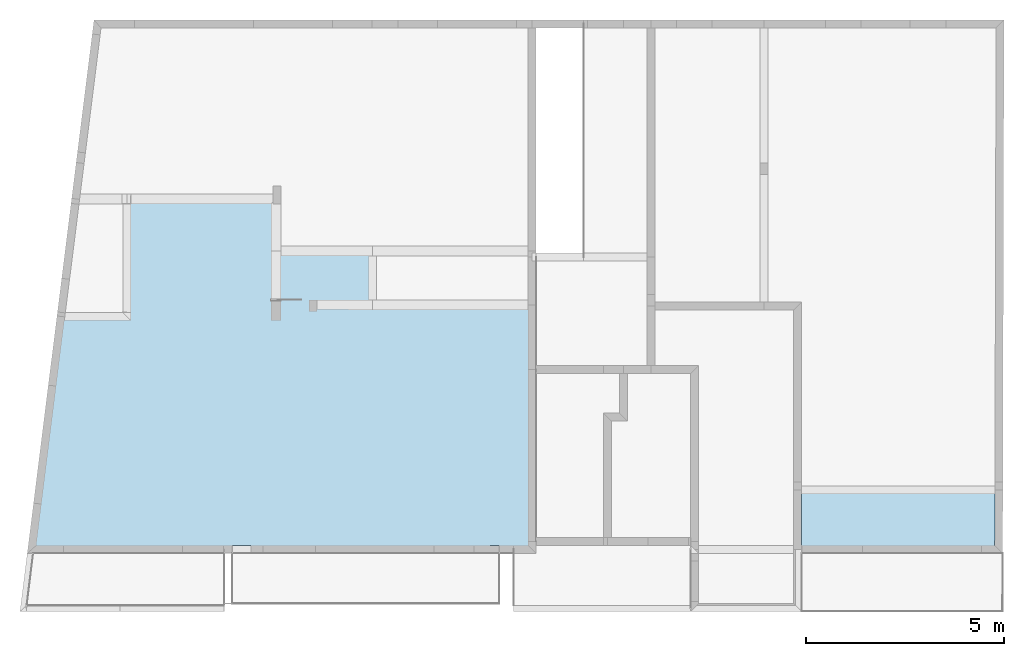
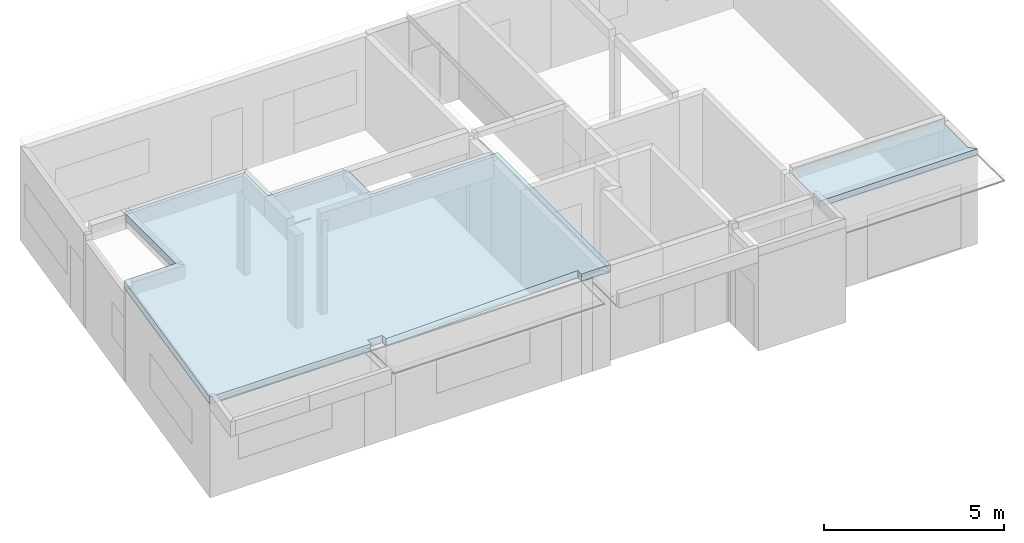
# One storey, part 17 of 17: 2 slabs.
"""IFC2X3 building model written with IfcOpenShell, lengths in metres."""

from ifc_helpers import new_model, si_unit, direction, frame, origin_with_axes, place, context, subcontext, project, spatial, faceted_brep, material, element, save


model = new_model("IFC2X3")

# Units and contexts
model_context = context("Model", 3, precision=0.0001, world=origin_with_axes(), true_north=direction((0.0, 1.0)))
plan_context = context("Plan", 2, precision=0.0001, world=origin_with_axes(), true_north=direction((0.0, 1.0)))
body_context = subcontext(model_context, "Body", "Model", "MODEL_VIEW")
ifc_project = project(units=[si_unit("MASSUNIT", "GRAM", prefix="KILO"), si_unit("AREAUNIT", "SQUARE_METRE"), si_unit("LENGTHUNIT", "METRE"), si_unit("VOLUMEUNIT", "CUBIC_METRE")], contexts=[plan_context, model_context])

# Site, building, storey
site_placement = place(None, origin_with_axes())
site = spatial("IfcSite", under=ifc_project, at=site_placement, Name="$", CompositionType="ELEMENT")
building_placement = place(site_placement, origin_with_axes())
building = spatial("IfcBuilding", under=site, at=building_placement, Name="Classeur ENS Ensemble", CompositionType="ELEMENT")
storey_placement = place(building_placement, frame((-20.30778888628, -1.812671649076, 0.0), z_axis=(0.0, 0.0, 1.0), x_axis=(1.0, 0.0, 0.0)))
storey = spatial("IfcBuildingStorey", under=building, at=storey_placement, Name="001 RdC", CompositionType="ELEMENT", Elevation=0.0)

# Slabs
ifc_material = material(Name="Default material")
slab_1_placement = place(storey_placement, frame((18.64083134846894, -11.6673283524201, 3.3), z_axis=(0.0, 0.0, 1.0), x_axis=(1.0, 0.0, 0.0)))
element("IfcSlab", 1, at=slab_1_placement, inside=storey, material=ifc_material, Name="Dalle BA 25 cm", PredefinedType="FLOOR", context=body_context, shape_type="Brep", held_by="IfcProductRepresentation", body=[
    faceted_brep([(12.84246396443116, 4.640000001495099, -0.25), (12.84246396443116, 0.3000000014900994, -0.25), (11.91246396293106, 0.2000000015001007, -0.25), (6.277463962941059, 6.3998566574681, -0.25), (6.91023398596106, 6.3998566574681, -0.25), (6.277463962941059, 6.380000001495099, -0.25), (12.84246396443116, 0.3000000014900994, -0.25), (12.84246396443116, 0.0, -0.25), (12.27338238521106, 0.0, -0.25), (11.91246396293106, 0.2000000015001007, -0.25), (5.64208853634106, 0.0, -0.25), (5.64208853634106, 0.2000000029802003, -0.25), (8.71246396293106, 6.2719961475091, -0.25), (5.64208853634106, 0.2000000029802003, -0.25), (6.91023398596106, 6.3998566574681, -0.25), (6.277463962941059, 7.6350000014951, -0.25), (8.812463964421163, 7.6350000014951, -0.25), (6.91023398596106, 6.3998566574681, -0.25), (5.64208853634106, 0.2000000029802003, -0.25), (8.812463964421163, 6.271818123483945, -0.25), (11.91246396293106, 0.2000000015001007, -0.25), (8.812463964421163, 6.271818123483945, -0.25), (5.64208853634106, 0.2000000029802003, -0.25), (8.71246396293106, 6.2719961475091, -0.25), (8.812463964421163, 6.271818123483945, -0.25), (8.71246396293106, 6.2719961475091, -0.25), (8.812463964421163, 7.6350000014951, -0.25), (5.64208853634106, 0.2000000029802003, -0.25), (5.172463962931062, 0.2000000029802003, -0.25), (6.152463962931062, 6.3998566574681, -0.25), (5.64208853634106, 0.2000000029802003, -0.25), (6.152463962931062, 6.3998566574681, -0.25), (6.277463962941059, 6.380000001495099, -0.25), (8.812463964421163, 7.6350000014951, -0.25), (8.71246396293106, 6.2719961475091, -0.25), (6.91023398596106, 6.3998566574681, -0.25), (6.277463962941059, 6.380000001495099, -0.25), (6.91023398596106, 6.3998566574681, -0.25), (5.64208853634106, 0.2000000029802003, -0.25), (12.84246396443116, 0.3000000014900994, -0.25), (12.27338238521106, 0.0, -0.25), (11.91246396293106, 0.2000000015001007, -0.25), (12.84246396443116, 4.640000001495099, -0.25), (11.91246396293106, 0.2000000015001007, -0.25), (8.812463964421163, 6.271818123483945, -0.25), (12.27338238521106, 0.0, -0.25), (11.91246396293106, 0.0, -0.25), (11.91246396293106, 0.2000000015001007, -0.25), (6.152463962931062, 6.3998566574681, -0.25), (6.277463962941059, 6.3998566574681, -0.25), (6.277463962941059, 6.380000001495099, -0.25), (2.41246396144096, 6.0800000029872, -0.25), (6.277463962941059, 7.6350000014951, -0.25), (6.152463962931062, 6.3998566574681, -0.25), (2.612463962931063, 8.9450000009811, -0.25), (6.277463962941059, 7.6350000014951, -0.25), (2.41246396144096, 6.0800000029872, -0.25), (6.91023398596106, 6.3998566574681, 0.0), (8.812463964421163, 7.6350000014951, 0.0), (6.277463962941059, 7.6350000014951, 0.0), (12.84246396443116, 6.264643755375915, 0.0), (8.812463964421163, 6.271818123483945, 0.0), (12.84246396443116, 4.740000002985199, 0.0), (6.91023398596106, 6.3998566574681, 0.0), (8.71246396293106, 6.2719961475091, 0.0), (8.812463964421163, 7.6350000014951, 0.0), (0.07558512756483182, 1.500101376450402e-09, -0.25), (0.7609533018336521, 6.080000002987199, -0.25), (2.41246396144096, 6.0800000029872, -0.25), (2.41246396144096, 8.8200163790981, 0.0), (2.612463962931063, 8.9450000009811, 0.0), (2.41246396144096, 8.9450000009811, 0.0), (11.91246396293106, 0.2000000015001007, 0.0), (12.84246396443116, 0.3000000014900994, 0.0), (12.84246396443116, 4.640000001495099, 0.0), (11.91246396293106, 0.2000000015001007, 0.0), (12.27338238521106, 0.0, 0.0), (12.84246396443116, 0.3000000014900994, 0.0), (2.41246396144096, 6.0800000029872, -0.25), (2.41246396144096, 8.8200163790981, -0.25), (2.612463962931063, 8.9450000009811, -0.25), (2.41246396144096, 6.0800000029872, 0.0), (0.7609533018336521, 6.080000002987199, 0.0), (0.07558512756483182, 1.500101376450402e-09, 0.0), (5.64208853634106, 0.2000000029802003, 0.0), (6.91023398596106, 6.3998566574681, 0.0), (6.277463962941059, 6.380000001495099, 0.0), (8.812463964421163, 6.271818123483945, 0.0), (11.91246396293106, 0.2000000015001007, 0.0), (12.84246396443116, 4.640000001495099, 0.0), (5.172463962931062, -1.77635683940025e-15, -0.25), (0.0, 0.0, -0.25), (0.07558512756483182, 1.500101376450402e-09, -0.25), (0.7609533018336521, 6.080000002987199, -0.25), (0.07558512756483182, 1.500101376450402e-09, -0.25), (0.0, 0.0, -0.25), (2.41246396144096, 8.9450000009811, -0.25), (2.612463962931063, 8.9450000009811, -0.25), (2.41246396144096, 8.8200163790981, -0.25), (12.27338238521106, 0.0, 0.0), (12.84246396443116, 0.0, 0.0), (12.84246396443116, 0.3000000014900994, 0.0), (12.84246396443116, 4.640000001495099, 0.0), (12.84246396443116, 0.3000000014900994, 0.0), (12.84246396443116, 0.3000000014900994, -0.25), (12.84246396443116, 4.640000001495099, -0.25), (6.91023398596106, 6.3998566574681, 0.0), (6.277463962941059, 7.6350000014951, 0.0), (6.277463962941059, 6.3998566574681, 0.0), (6.277463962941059, 6.3998566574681, -0.25), (6.277463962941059, 7.6350000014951, -0.25), (6.91023398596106, 6.3998566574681, -0.25), (11.91246396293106, 0.2000000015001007, 0.0), (11.91246396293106, 0.0, 0.0), (12.27338238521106, 0.0, 0.0), (11.91246396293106, 0.0, 0.0), (11.91246396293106, 0.2000000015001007, 0.0), (11.91246396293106, 0.2000000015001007, -0.25), (11.91246396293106, 0.0, -0.25), (8.812463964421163, 6.271818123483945, 0.0), (8.71246396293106, 6.2719961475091, 0.0), (8.71246396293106, 6.2719961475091, -0.25), (8.812463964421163, 6.271818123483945, -0.25), (8.812463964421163, 7.6350000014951, 0.0), (8.812463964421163, 6.271818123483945, 0.0), (8.812463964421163, 6.271818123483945, -0.25), (8.812463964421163, 7.6350000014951, -0.25), (5.172463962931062, -1.77635683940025e-15, -0.25), (0.07558512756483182, 1.500101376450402e-09, -0.25), (5.172463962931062, 0.2000000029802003, -0.25), (6.277463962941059, 6.3998566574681, 0.0), (6.277463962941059, 7.6350000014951, 0.0), (6.152463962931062, 6.3998566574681, 0.0), (6.277463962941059, 6.380000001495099, 0.0), (6.152463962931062, 6.3998566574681, 0.0), (5.64208853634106, 0.2000000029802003, 0.0), (8.71246396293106, 6.2719961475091, 0.0), (5.64208853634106, 0.2000000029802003, 0.0), (8.812463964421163, 6.271818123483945, 0.0), (6.152463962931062, 6.3998566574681, 0.0), (5.172463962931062, 0.2000000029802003, 0.0), (5.64208853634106, 0.2000000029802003, 0.0), (8.812463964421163, 6.271818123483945, 0.0), (12.84246396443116, 4.640000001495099, 0.0), (12.84246396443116, 4.740000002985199, 0.0), (6.277463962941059, 7.6350000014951, 0.0), (6.277463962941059, 8.9450000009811, 0.0), (2.612463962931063, 8.9450000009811, 0.0), (12.84246396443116, 4.740000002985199, -0.25), (12.84246396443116, 4.640000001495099, -0.25), (8.812463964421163, 6.271818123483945, -0.25), (8.812463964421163, 7.6350000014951, 0.0), (8.71246396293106, 6.2719961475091, 0.0), (8.812463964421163, 6.271818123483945, 0.0), (5.64208853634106, 0.2000000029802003, 0.0), (5.172463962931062, 0.2000000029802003, 0.0), (5.172463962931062, 0.2000000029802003, -0.25), (5.64208853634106, 0.2000000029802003, -0.25), (6.91023398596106, 6.3998566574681, 0.0), (5.64208853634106, 0.2000000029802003, 0.0), (8.71246396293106, 6.2719961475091, 0.0), (12.27338238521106, 0.0, 0.0), (11.91246396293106, 0.0, 0.0), (11.91246396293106, 0.0, -0.25), (12.27338238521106, 0.0, -0.25), (8.71246396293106, 6.2719961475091, 0.0), (8.812463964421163, 6.271818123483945, 0.0), (8.812463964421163, 6.271818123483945, -0.25), (8.71246396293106, 6.2719961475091, -0.25), (0.07558512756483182, 1.500101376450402e-09, -0.25), (2.41246396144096, 6.0800000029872, -0.25), (5.172463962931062, 0.2000000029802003, -0.25), (5.172463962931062, 0.2000000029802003, 0.0), (0.07558512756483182, 1.500101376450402e-09, 0.0), (5.172463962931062, -1.77635683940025e-15, 0.0), (2.41246396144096, 6.0800000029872, -0.25), (6.152463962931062, 6.3998566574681, -0.25), (5.172463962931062, 0.2000000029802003, -0.25), (11.91246396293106, 0.2000000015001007, 0.0), (8.812463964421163, 6.271818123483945, 0.0), (5.64208853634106, 0.2000000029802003, 0.0), (6.152463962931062, 6.3998566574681, -0.25), (6.277463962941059, 7.6350000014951, -0.25), (6.277463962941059, 6.3998566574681, -0.25), (0.07558512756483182, 1.500101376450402e-09, 0.0), (0.0, 0.0, 0.0), (5.172463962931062, -1.77635683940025e-15, 0.0), (6.277463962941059, 6.380000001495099, 0.0), (6.91023398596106, 6.3998566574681, 0.0), (6.277463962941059, 6.3998566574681, 0.0), (5.64208853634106, 0.2000000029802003, 0.0), (5.64208853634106, 0.0, 0.0), (11.91246396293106, 0.2000000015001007, 0.0), (12.84246396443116, 0.3000000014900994, 0.0), (12.84246396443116, 0.0, 0.0), (12.84246396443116, 0.0, -0.25), (12.84246396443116, 0.3000000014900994, -0.25), (5.172463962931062, 0.2000000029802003, 0.0), (2.41246396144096, 6.0800000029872, 0.0), (0.07558512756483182, 1.500101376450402e-09, 0.0), (12.84246396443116, 0.0, 0.0), (12.27338238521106, 0.0, 0.0), (12.27338238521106, 0.0, -0.25), (12.84246396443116, 0.0, -0.25), (5.64208853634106, 0.0, 0.0), (5.64208853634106, 0.2000000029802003, 0.0), (5.64208853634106, 0.2000000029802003, -0.25), (5.64208853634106, 0.0, -0.25), (2.41246396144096, 6.0800000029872, 0.0), (6.277463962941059, 7.6350000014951, 0.0), (2.612463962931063, 8.9450000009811, 0.0), (6.277463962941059, 6.3998566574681, 0.0), (6.91023398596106, 6.3998566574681, 0.0), (6.91023398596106, 6.3998566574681, -0.25), (6.277463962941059, 6.3998566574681, -0.25), (6.277463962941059, 6.380000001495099, 0.0), (6.277463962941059, 6.3998566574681, 0.0), (6.277463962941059, 6.3998566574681, -0.25), (6.277463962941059, 6.380000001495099, -0.25), (2.612463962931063, 8.9450000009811, 0.0), (2.41246396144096, 8.8200163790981, 0.0), (2.41246396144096, 6.0800000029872, 0.0), (0.0, 0.0, 0.0), (0.07558512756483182, 1.500101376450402e-09, 0.0), (0.7609533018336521, 6.080000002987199, 0.0), (6.277463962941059, 6.380000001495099, 0.0), (6.277463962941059, 6.3998566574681, 0.0), (6.152463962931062, 6.3998566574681, 0.0), (6.277463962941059, 7.6350000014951, 0.0), (8.812463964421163, 7.6350000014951, 0.0), (8.812463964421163, 7.6350000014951, -0.25), (6.277463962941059, 7.6350000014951, -0.25), (2.612463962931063, 8.9450000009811, 0.0), (6.277463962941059, 8.9450000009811, 0.0), (6.277463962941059, 8.9450000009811, -0.25), (2.612463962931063, 8.9450000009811, -0.25), (6.277463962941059, 8.9450000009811, 0.0), (6.277463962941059, 7.6350000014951, 0.0), (6.277463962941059, 7.6350000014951, -0.25), (6.277463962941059, 8.9450000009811, -0.25), (6.277463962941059, 7.6350000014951, 0.0), (6.277463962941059, 6.3998566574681, 0.0), (6.277463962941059, 6.3998566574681, -0.25), (6.277463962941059, 7.6350000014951, -0.25), (2.612463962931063, 8.9450000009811, -0.25), (6.277463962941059, 8.9450000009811, -0.25), (6.277463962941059, 7.6350000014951, -0.25), (12.84246396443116, 4.740000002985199, -0.25), (8.812463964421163, 6.271818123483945, -0.25), (12.84246396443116, 6.264643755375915, -0.25), (6.152463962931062, 6.3998566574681, 0.0), (6.277463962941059, 7.6350000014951, 0.0), (2.41246396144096, 6.0800000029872, 0.0), (5.172463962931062, 0.2000000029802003, 0.0), (6.152463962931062, 6.3998566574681, 0.0), (2.41246396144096, 6.0800000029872, 0.0), (2.41246396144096, 6.0800000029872, 0.0), (2.41246396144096, 8.8200163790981, 0.0), (2.41246396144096, 8.8200163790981, -0.25), (2.41246396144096, 6.0800000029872, -0.25), (6.91023398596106, 6.3998566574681, 0.0), (6.277463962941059, 6.3998566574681, 0.0), (6.277463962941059, 6.3998566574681, -0.25), (6.91023398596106, 6.3998566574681, -0.25), (12.84246396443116, 4.740000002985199, 0.0), (12.84246396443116, 4.640000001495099, 0.0), (12.84246396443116, 4.640000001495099, -0.25), (12.84246396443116, 4.740000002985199, -0.25), (12.84246396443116, 6.264643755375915, 0.0), (12.84246396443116, 4.740000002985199, 0.0), (12.84246396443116, 4.740000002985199, -0.25), (12.84246396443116, 6.264643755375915, -0.25), (0.7609533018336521, 6.080000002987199, 0.0), (2.41246396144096, 6.0800000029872, 0.0), (2.41246396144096, 6.0800000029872, -0.25), (0.7609533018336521, 6.080000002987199, -0.25), (6.277463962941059, 6.3998566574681, 0.0), (6.277463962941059, 6.380000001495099, 0.0), (6.277463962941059, 6.380000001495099, -0.25), (6.277463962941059, 6.3998566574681, -0.25), (2.41246396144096, 8.8200163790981, 0.0), (2.41246396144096, 8.9450000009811, 0.0), (2.41246396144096, 8.9450000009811, -0.25), (2.41246396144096, 8.8200163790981, -0.25), (6.152463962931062, 6.3998566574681, 0.0), (6.277463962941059, 6.3998566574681, 0.0), (6.277463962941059, 6.3998566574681, -0.25), (6.152463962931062, 6.3998566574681, -0.25), (8.812463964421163, 6.271818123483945, 0.0), (12.84246396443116, 6.264643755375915, 0.0), (12.84246396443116, 6.264643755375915, -0.25), (8.812463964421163, 6.271818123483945, -0.25), (0.07558512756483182, 1.500101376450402e-09, 0.0), (5.172463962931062, -1.77635683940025e-15, 0.0), (5.172463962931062, -1.77635683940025e-15, -0.25), (0.07558512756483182, 1.500101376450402e-09, -0.25), (5.172463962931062, -1.77635683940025e-15, 0.0), (0.0, 0.0, 0.0), (0.0, 0.0, -0.25), (5.172463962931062, -1.77635683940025e-15, -0.25), (5.172463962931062, 0.2000000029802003, 0.0), (5.172463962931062, -1.77635683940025e-15, 0.0), (5.172463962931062, -1.77635683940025e-15, -0.25), (5.172463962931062, 0.2000000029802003, -0.25), (6.277463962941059, 6.3998566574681, 0.0), (6.152463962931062, 6.3998566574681, 0.0), (6.152463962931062, 6.3998566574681, -0.25), (6.277463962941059, 6.3998566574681, -0.25), (5.172463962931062, -1.77635683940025e-15, 0.0), (0.07558512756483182, 1.500101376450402e-09, 0.0), (0.07558512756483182, 1.500101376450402e-09, -0.25), (5.172463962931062, -1.77635683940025e-15, -0.25), (0.0, 0.0, 0.0), (0.07558512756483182, 1.500101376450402e-09, 0.0), (0.07558512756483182, 1.500101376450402e-09, -0.25), (0.0, 0.0, -0.25), (0.0, 0.0, 0.0), (0.7609533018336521, 6.080000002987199, 0.0), (0.7609533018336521, 6.080000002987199, -0.25), (0.0, 0.0, -0.25), (2.41246396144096, 8.9450000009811, 0.0), (2.612463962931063, 8.9450000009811, 0.0), (2.612463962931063, 8.9450000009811, -0.25), (2.41246396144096, 8.9450000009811, -0.25), (0.07558512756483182, 1.500101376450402e-09, 0.0), (0.0, 0.0, 0.0), (0.0, 0.0, -0.25), (0.07558512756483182, 1.500101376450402e-09, -0.25), (6.277463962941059, 6.3998566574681, 0.0), (6.277463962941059, 7.6350000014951, 0.0), (6.277463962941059, 7.6350000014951, -0.25), (6.277463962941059, 6.3998566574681, -0.25)], [[[0, 1, 2]], [[3, 4, 5]], [[6, 7, 8]], [[9, 10, 11]], [[12, 13, 14]], [[15, 16, 17]], [[18, 19, 20]], [[21, 22, 23]], [[24, 25, 26]], [[27, 28, 29]], [[30, 31, 32]], [[33, 34, 35]], [[36, 37, 38]], [[39, 40, 41]], [[42, 43, 44]], [[45, 46, 47]], [[48, 49, 50]], [[51, 52, 53]], [[54, 55, 56]], [[57, 58, 59]], [[60, 61, 62]], [[63, 64, 65]], [[66, 67, 68]], [[69, 70, 71]], [[72, 73, 74]], [[75, 76, 77]], [[78, 79, 80]], [[81, 82, 83]], [[84, 85, 86]], [[87, 88, 89]], [[90, 91, 92]], [[93, 94, 95]], [[96, 97, 98]], [[99, 100, 101]], [[102, 103, 104, 105]], [[106, 107, 108]], [[109, 110, 111]], [[112, 113, 114]], [[115, 116, 117, 118]], [[119, 120, 121, 122]], [[123, 124, 125, 126]], [[127, 128, 129]], [[130, 131, 132]], [[133, 134, 135]], [[136, 137, 138]], [[139, 140, 141]], [[142, 143, 144]], [[145, 146, 147]], [[148, 149, 150]], [[151, 152, 153]], [[154, 155, 156, 157]], [[158, 159, 160]], [[161, 162, 163, 164]], [[165, 166, 167, 168]], [[169, 170, 171]], [[172, 173, 174]], [[175, 176, 177]], [[178, 179, 180]], [[181, 182, 183]], [[184, 185, 186]], [[187, 188, 189]], [[190, 191, 192]], [[193, 194, 195, 196]], [[197, 198, 199]], [[200, 201, 202, 203]], [[204, 205, 206, 207]], [[208, 209, 210]], [[211, 212, 213, 214]], [[215, 216, 217, 218]], [[219, 220, 221]], [[222, 223, 224]], [[225, 226, 227]], [[228, 229, 230, 231]], [[232, 233, 234, 235]], [[236, 237, 238, 239]], [[240, 241, 242, 243]], [[244, 245, 246]], [[247, 248, 249]], [[250, 251, 252]], [[253, 254, 255]], [[256, 257, 258, 259]], [[260, 261, 262, 263]], [[264, 265, 266, 267]], [[268, 269, 270, 271]], [[272, 273, 274, 275]], [[276, 277, 278, 279]], [[280, 281, 282, 283]], [[284, 285, 286, 287]], [[288, 289, 290, 291]], [[292, 293, 294, 295]], [[296, 297, 298, 299]], [[300, 301, 302, 303]], [[304, 305, 306, 307]], [[308, 309, 310, 311]], [[312, 313, 314, 315]], [[316, 317, 318, 319]], [[320, 321, 322, 323]], [[324, 325, 326, 327]], [[328, 329, 330, 331]]]),
])
slab_2_placement = place(storey_placement, frame((38.18329531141, -11.4673283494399, 3.1), z_axis=(0.0, 0.0, 1.0), x_axis=(1.0, 0.0, 0.0)))
element("IfcSlab", 2, at=slab_2_placement, inside=storey, material=ifc_material, Name="Dalle BA 20 cm", PredefinedType="FLOOR", context=body_context, shape_type="Brep", held_by="IfcProductRepresentation", body=[
    faceted_brep([(1.490107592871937e-09, 1.499596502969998, -0.2000000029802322), (4.875803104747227, 1.499596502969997, -0.2000000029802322), (4.87198745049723, 1.77635683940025e-15, -0.2000000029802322), (1.490107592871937e-09, -0.1000000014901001, 0.0), (7.105427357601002e-15, -0.2000000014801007, 0.0), (4.87198745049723, 1.77635683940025e-15, 0.0), (4.87198745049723, 1.77635683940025e-15, 0.0), (4.875803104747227, 1.499596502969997, 0.0), (1.490107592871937e-09, 1.499596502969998, 0.0), (1.490107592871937e-09, 1.499596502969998, 0.0), (4.875803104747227, 1.499596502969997, 0.0), (4.875803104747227, 1.499596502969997, -0.2000000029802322), (1.490107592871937e-09, 1.499596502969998, -0.2000000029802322), (4.87198745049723, 1.77635683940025e-15, -0.2000000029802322), (0.0, 0.0, -0.2000000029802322), (1.490107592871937e-09, 1.499596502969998, -0.2000000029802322), (4.87198745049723, 1.77635683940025e-15, -0.2000000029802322), (1.490107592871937e-09, -0.1000000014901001, -0.2000000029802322), (0.0, 0.0, -0.2000000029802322), (4.87198745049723, 1.77635683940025e-15, 0.0), (4.971733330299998, -0.1000000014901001, 0.0), (5.071479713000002, -0.199801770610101, 0.0), (0.0, 0.0, 0.0), (1.490107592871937e-09, -0.1000000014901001, 0.0), (4.87198745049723, 1.77635683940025e-15, 0.0), (4.87198745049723, 1.77635683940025e-15, 0.0), (7.105427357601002e-15, -0.2000000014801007, 0.0), (4.971733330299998, -0.1000000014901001, 0.0), (4.875803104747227, 1.499596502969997, 0.0), (4.87198745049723, 1.77635683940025e-15, 0.0), (4.87198745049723, 1.77635683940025e-15, -0.2000000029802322), (4.875803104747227, 1.499596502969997, -0.2000000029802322), (0.0, 0.0, 0.0), (4.87198745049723, 1.77635683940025e-15, 0.0), (4.87198745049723, 1.77635683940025e-15, -0.2000000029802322), (0.0, 0.0, -0.2000000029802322), (4.87198745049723, 1.77635683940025e-15, 0.0), (0.0, 0.0, 0.0), (0.0, 0.0, -0.2000000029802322), (4.87198745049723, 1.77635683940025e-15, -0.2000000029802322), (4.971733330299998, -0.1000000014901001, -0.2000000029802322), (7.105427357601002e-15, -0.2000000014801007, -0.2000000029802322), (4.87198745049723, 1.77635683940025e-15, -0.2000000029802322), (0.0, 0.0, 0.0), (1.490107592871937e-09, 1.499596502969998, 0.0), (1.490107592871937e-09, 1.499596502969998, -0.2000000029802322), (0.0, 0.0, -0.2000000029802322), (5.071479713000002, -0.199801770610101, 0.0), (7.105427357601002e-15, -0.2000000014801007, 0.0), (7.105427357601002e-15, -0.2000000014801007, -0.2000000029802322), (5.071479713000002, -0.199801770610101, -0.2000000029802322), (4.87198745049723, 1.77635683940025e-15, -0.2000000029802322), (7.105427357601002e-15, -0.2000000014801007, -0.2000000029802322), (1.490107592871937e-09, -0.1000000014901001, -0.2000000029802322), (5.071479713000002, -0.199801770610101, -0.2000000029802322), (4.971733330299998, -0.1000000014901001, -0.2000000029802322), (4.87198745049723, 1.77635683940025e-15, -0.2000000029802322), (1.490107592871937e-09, 1.499596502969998, 0.0), (0.0, 0.0, 0.0), (4.87198745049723, 1.77635683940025e-15, 0.0), (7.105427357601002e-15, -0.2000000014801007, 0.0), (1.490107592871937e-09, -0.1000000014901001, 0.0), (1.490107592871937e-09, -0.1000000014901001, -0.2000000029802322), (7.105427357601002e-15, -0.2000000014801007, -0.2000000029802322), (4.971733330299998, -0.1000000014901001, 0.0), (4.87198745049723, 1.77635683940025e-15, 0.0), (4.87198745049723, 1.77635683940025e-15, -0.2000000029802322), (4.971733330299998, -0.1000000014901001, -0.2000000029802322), (4.87198745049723, 1.77635683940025e-15, 0.0), (5.071479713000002, -0.199801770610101, 0.0), (5.071479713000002, -0.199801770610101, -0.2000000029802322), (4.87198745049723, 1.77635683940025e-15, -0.2000000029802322), (4.87198745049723, 1.77635683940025e-15, 0.0), (4.971733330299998, -0.1000000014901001, 0.0), (4.971733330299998, -0.1000000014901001, -0.2000000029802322), (4.87198745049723, 1.77635683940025e-15, -0.2000000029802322), (5.071479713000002, -0.199801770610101, -0.2000000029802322), (7.105427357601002e-15, -0.2000000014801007, -0.2000000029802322), (4.971733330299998, -0.1000000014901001, -0.2000000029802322), (1.490107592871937e-09, -0.1000000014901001, 0.0), (0.0, 0.0, 0.0), (0.0, 0.0, -0.2000000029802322), (1.490107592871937e-09, -0.1000000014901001, -0.2000000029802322), (4.971733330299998, -0.1000000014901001, 0.0), (7.105427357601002e-15, -0.2000000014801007, 0.0), (5.071479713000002, -0.199801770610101, 0.0)], [[[0, 1, 2]], [[3, 4, 5]], [[6, 7, 8]], [[9, 10, 11, 12]], [[13, 14, 15]], [[16, 17, 18]], [[19, 20, 21]], [[22, 23, 24]], [[25, 26, 27]], [[28, 29, 30, 31]], [[32, 33, 34, 35]], [[36, 37, 38, 39]], [[40, 41, 42]], [[43, 44, 45, 46]], [[47, 48, 49, 50]], [[51, 52, 53]], [[54, 55, 56]], [[57, 58, 59]], [[60, 61, 62, 63]], [[64, 65, 66, 67]], [[68, 69, 70, 71]], [[72, 73, 74, 75]], [[76, 77, 78]], [[79, 80, 81, 82]], [[83, 84, 85]]]),
])

save(model, "model.ifc")
